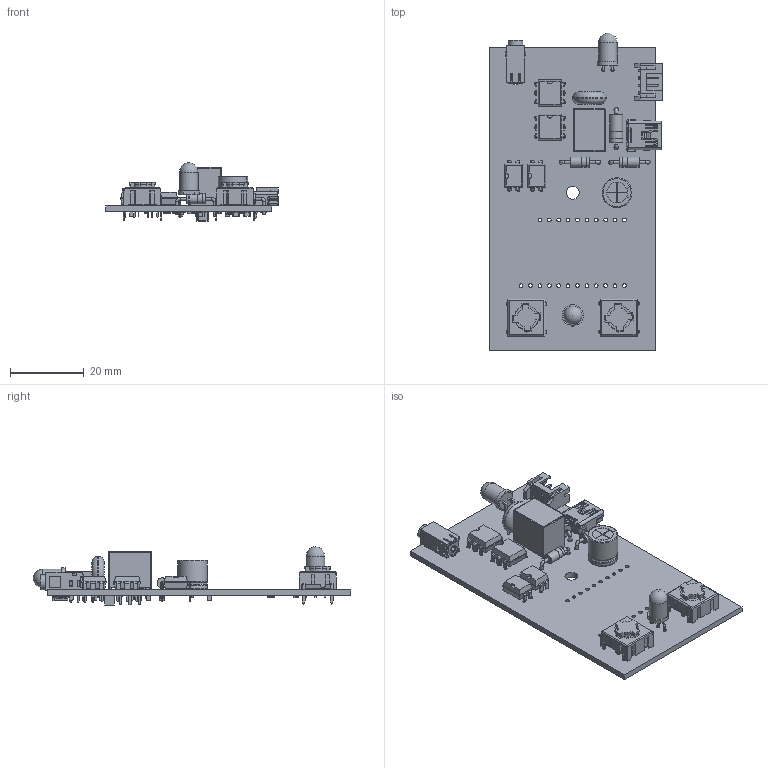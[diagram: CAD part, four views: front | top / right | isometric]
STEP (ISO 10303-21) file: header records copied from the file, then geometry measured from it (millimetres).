
FILE_DESCRIPTION(('KiCad electronic assembly'),'2;1');
FILE_NAME('SlideScan.step','2022-05-31T08:30:00',('An Author'),( 'A Company'),'Open CASCADE STEP processor 6.9', 'KiCad to STEP converter','Unknown');
FILE_SCHEMA(('AUTOMOTIVE_DESIGN { 1 0 10303 214 1 1 1 1 }'));
Length unit declared in the file: millimetre
Products named in the file (42): Open CASCADE STEP translator 6.9 1; S4B-PH-K-S(LF)(SN)--3DModel-STEP-56544; COMPOUND; R_0805_2012Metric; SOLID; C_0805_2012Metric; C_1210_3225Metric; DIP-4_W7.62mm; DIP-6_W7.62mm; R-78C5.0-1.0--3DModel-STEP-1; 5ETH9XX; SOT-23; LED_D5.0mm-3; L_0805_2012Metric; lumberg_1501_04; 2172034-1--3DModel-STEP-56544; RV_Disc_D9mm_W3.3mm_P5mm; LED_D5.0mm_Horizontal_O1.27mm_Z3.0mm_IRBlack; D_DO-15_P10.16mm_Horizontal; D_DO-41_SOD81_P10.16mm_Horizontal; CP_Radial_D8.0mm_P3.50mm
Assembly tree (57 placements, depth 3):
  Open CASCADE STEP translator 6.9 1
    S4B-PH-K-S(LF)(SN)--3DModel-STEP-56544
      COMPOUND
    R_0805_2012Metric  x10
      SOLID
    C_0805_2012Metric  x4
      SOLID
    C_1210_3225Metric
      SOLID
    DIP-4_W7.62mm  x2
      SOLID
    DIP-6_W7.62mm  x2
      SOLID
    R-78C5.0-1.0--3DModel-STEP-1
      SOLID
      SOLID
      SOLID
      SOLID
      SOLID
    5ETH9XX  x2
      SOLID
    SOT-23
      SOLID
    LED_D5.0mm-3
      SOLID
    L_0805_2012Metric
      SOLID
    lumberg_1501_04
      SOLID
    2172034-1--3DModel-STEP-56544
      COMPOUND
    RV_Disc_D9mm_W3.3mm_P5mm
      SOLID
    LED_D5.0mm_Horizontal_O1.27mm_Z3.0mm_IRBlack
      SOLID
    D_DO-15_P10.16mm_Horizontal
      SOLID
    D_DO-41_SOD81_P10.16mm_Horizontal  x2
      SOLID
    CP_Radial_D8.0mm_P3.50mm
      SOLID
    COMPOUND
Bounding box: 46.75 x 85.87 x 15.8 mm (x, y, z)
Volume: 9733.8 mm3; surface area: 14763.7 mm2
Topology: 50 solids, 51 shells, 2871 faces, 7873 edges, 5087 vertices
Faces by surface type: plane 1912, cylinder 667, bspline 241, torus 16, cone 15, sphere 10, revolution 10
Full cylindrical faces by diameter (mm): 0.5 x2, 0.54 x2, 0.6 x2, 0.7 x9, 0.8 x30, 0.9 x20, 1 x22, 1.1 x4, 1.2 x2, 2 x1, 2.6 x1, 2.7 x4, 2.72 x2, 3.5 x1, 3.6 x2, 3.62 x1, 4 x1, 5 x2, 9 x1
Entity records: 154718 total; most frequent: CARTESIAN_POINT 38074, DIRECTION 20584, LINE 13816, VECTOR 13816, ORIENTED_EDGE 11214, PCURVE 11214, DEFINITIONAL_REPRESENTATION 11214, EDGE_CURVE 5607
